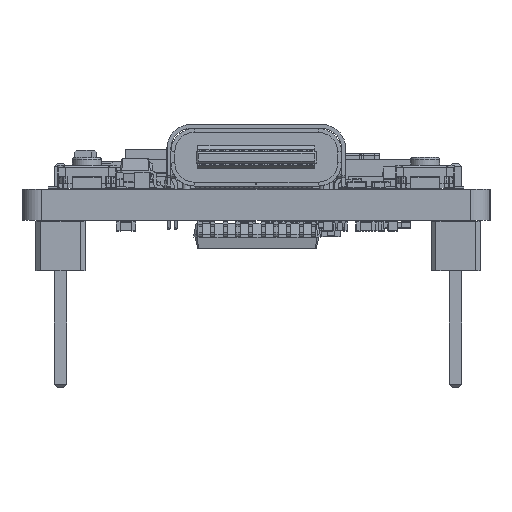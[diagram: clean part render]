
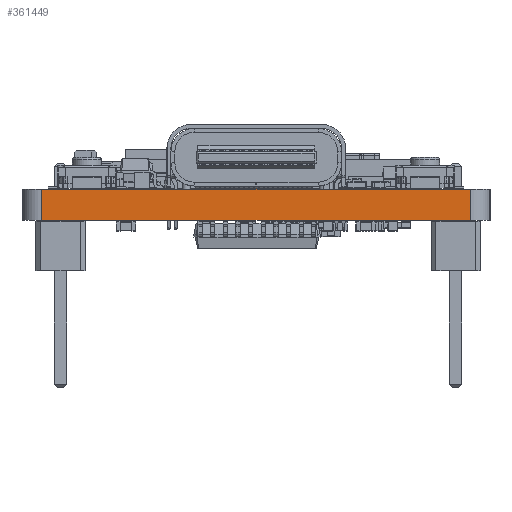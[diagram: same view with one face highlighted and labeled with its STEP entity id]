
A CAD part, left-side view. The second image highlights one B-rep face of the part: STEP entity #361449.
In plain terms, the highlighted planar face has unit normal (-1, 0, 0).
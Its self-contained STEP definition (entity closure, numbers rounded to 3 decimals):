
#356937 = PLANE('',#356938);
#356938 = AXIS2_PLACEMENT_3D('',#356939,#356940,#356941);
#356939 = CARTESIAN_POINT('',(29.807,12.065,1.6));
#356940 = DIRECTION('',(0.,0.,1.));
#356941 = DIRECTION('',(1.,0.,0.));
#356991 = PLANE('',#356992);
#356992 = AXIS2_PLACEMENT_3D('',#356993,#356994,#356995);
#356993 = CARTESIAN_POINT('',(29.807,12.065,0.));
#356994 = DIRECTION('',(0.,0.,1.));
#356995 = DIRECTION('',(1.,0.,0.));
#357188 = VERTEX_POINT('',#357189);
#357189 = CARTESIAN_POINT('',(0.025,23.089,0.));
#357204 = CYLINDRICAL_SURFACE('',#357205,1.016);
#357205 = AXIS2_PLACEMENT_3D('',#357206,#357207,#357208);
#357206 = CARTESIAN_POINT('',(1.041,23.089,0.));
#357207 = DIRECTION('',(0.,0.,-1.));
#357208 = DIRECTION('',(1.,0.,0.));
#357216 = EDGE_CURVE('',#357188,#357217,#357219,.T.);
#357217 = VERTEX_POINT('',#357218);
#357218 = CARTESIAN_POINT('',(0.025,1.041,0.));
#357219 = SURFACE_CURVE('',#357220,(#357224,#357231),.PCURVE_S1.);
#357220 = LINE('',#357221,#357222);
#357221 = CARTESIAN_POINT('',(0.025,23.089,0.));
#357222 = VECTOR('',#357223,1.);
#357223 = DIRECTION('',(0.,-1.,0.));
#357224 = PCURVE('',#356991,#357225);
#357225 = DEFINITIONAL_REPRESENTATION('',(#357226),#357230);
#357226 = LINE('',#357227,#357228);
#357227 = CARTESIAN_POINT('',(-29.782,11.024));
#357228 = VECTOR('',#357229,1.);
#357229 = DIRECTION('',(0.,-1.));
#357230 = ( GEOMETRIC_REPRESENTATION_CONTEXT(2) 
PARAMETRIC_REPRESENTATION_CONTEXT() REPRESENTATION_CONTEXT('2D SPACE',''
  ) );
#357231 = PCURVE('',#357232,#357237);
#357232 = PLANE('',#357233);
#357233 = AXIS2_PLACEMENT_3D('',#357234,#357235,#357236);
#357234 = CARTESIAN_POINT('',(0.025,23.089,0.));
#357235 = DIRECTION('',(1.,0.,0.));
#357236 = DIRECTION('',(0.,-1.,0.));
#357237 = DEFINITIONAL_REPRESENTATION('',(#357238),#357242);
#357238 = LINE('',#357239,#357240);
#357239 = CARTESIAN_POINT('',(0.,0.));
#357240 = VECTOR('',#357241,1.);
#357241 = DIRECTION('',(1.,0.));
#357242 = ( GEOMETRIC_REPRESENTATION_CONTEXT(2) 
PARAMETRIC_REPRESENTATION_CONTEXT() REPRESENTATION_CONTEXT('2D SPACE',''
  ) );
#357261 = CYLINDRICAL_SURFACE('',#357262,1.016);
#357262 = AXIS2_PLACEMENT_3D('',#357263,#357264,#357265);
#357263 = CARTESIAN_POINT('',(1.041,1.041,0.));
#357264 = DIRECTION('',(0.,0.,-1.));
#357265 = DIRECTION('',(1.,0.,0.));
#359462 = VERTEX_POINT('',#359463);
#359463 = CARTESIAN_POINT('',(0.025,23.089,1.6));
#359485 = EDGE_CURVE('',#359462,#359486,#359488,.T.);
#359486 = VERTEX_POINT('',#359487);
#359487 = CARTESIAN_POINT('',(0.025,1.041,1.6));
#359488 = SURFACE_CURVE('',#359489,(#359493,#359500),.PCURVE_S1.);
#359489 = LINE('',#359490,#359491);
#359490 = CARTESIAN_POINT('',(0.025,23.089,1.6));
#359491 = VECTOR('',#359492,1.);
#359492 = DIRECTION('',(0.,-1.,0.));
#359493 = PCURVE('',#356937,#359494);
#359494 = DEFINITIONAL_REPRESENTATION('',(#359495),#359499);
#359495 = LINE('',#359496,#359497);
#359496 = CARTESIAN_POINT('',(-29.782,11.024));
#359497 = VECTOR('',#359498,1.);
#359498 = DIRECTION('',(0.,-1.));
#359499 = ( GEOMETRIC_REPRESENTATION_CONTEXT(2) 
PARAMETRIC_REPRESENTATION_CONTEXT() REPRESENTATION_CONTEXT('2D SPACE',''
  ) );
#359500 = PCURVE('',#357232,#359501);
#359501 = DEFINITIONAL_REPRESENTATION('',(#359502),#359506);
#359502 = LINE('',#359503,#359504);
#359503 = CARTESIAN_POINT('',(0.,-1.6));
#359504 = VECTOR('',#359505,1.);
#359505 = DIRECTION('',(1.,0.));
#359506 = ( GEOMETRIC_REPRESENTATION_CONTEXT(2) 
PARAMETRIC_REPRESENTATION_CONTEXT() REPRESENTATION_CONTEXT('2D SPACE',''
  ) );
#361399 = EDGE_CURVE('',#357217,#359486,#361400,.T.);
#361400 = SURFACE_CURVE('',#361401,(#361405,#361412),.PCURVE_S1.);
#361401 = LINE('',#361402,#361403);
#361402 = CARTESIAN_POINT('',(0.025,1.041,0.));
#361403 = VECTOR('',#361404,1.);
#361404 = DIRECTION('',(0.,0.,1.));
#361405 = PCURVE('',#357261,#361406);
#361406 = DEFINITIONAL_REPRESENTATION('',(#361407),#361411);
#361407 = LINE('',#361408,#361409);
#361408 = CARTESIAN_POINT('',(-3.142,0.));
#361409 = VECTOR('',#361410,1.);
#361410 = DIRECTION('',(0.,-1.));
#361411 = ( GEOMETRIC_REPRESENTATION_CONTEXT(2) 
PARAMETRIC_REPRESENTATION_CONTEXT() REPRESENTATION_CONTEXT('2D SPACE',''
  ) );
#361412 = PCURVE('',#357232,#361413);
#361413 = DEFINITIONAL_REPRESENTATION('',(#361414),#361418);
#361414 = LINE('',#361415,#361416);
#361415 = CARTESIAN_POINT('',(22.047,0.));
#361416 = VECTOR('',#361417,1.);
#361417 = DIRECTION('',(0.,-1.));
#361418 = ( GEOMETRIC_REPRESENTATION_CONTEXT(2) 
PARAMETRIC_REPRESENTATION_CONTEXT() REPRESENTATION_CONTEXT('2D SPACE',''
  ) );
#361428 = EDGE_CURVE('',#357188,#359462,#361429,.T.);
#361429 = SURFACE_CURVE('',#361430,(#361434,#361441),.PCURVE_S1.);
#361430 = LINE('',#361431,#361432);
#361431 = CARTESIAN_POINT('',(0.025,23.089,0.));
#361432 = VECTOR('',#361433,1.);
#361433 = DIRECTION('',(0.,0.,1.));
#361434 = PCURVE('',#357204,#361435);
#361435 = DEFINITIONAL_REPRESENTATION('',(#361436),#361440);
#361436 = LINE('',#361437,#361438);
#361437 = CARTESIAN_POINT('',(-3.142,0.));
#361438 = VECTOR('',#361439,1.);
#361439 = DIRECTION('',(0.,-1.));
#361440 = ( GEOMETRIC_REPRESENTATION_CONTEXT(2) 
PARAMETRIC_REPRESENTATION_CONTEXT() REPRESENTATION_CONTEXT('2D SPACE',''
  ) );
#361441 = PCURVE('',#357232,#361442);
#361442 = DEFINITIONAL_REPRESENTATION('',(#361443),#361447);
#361443 = LINE('',#361444,#361445);
#361444 = CARTESIAN_POINT('',(0.,0.));
#361445 = VECTOR('',#361446,1.);
#361446 = DIRECTION('',(0.,-1.));
#361447 = ( GEOMETRIC_REPRESENTATION_CONTEXT(2) 
PARAMETRIC_REPRESENTATION_CONTEXT() REPRESENTATION_CONTEXT('2D SPACE',''
  ) );
#361449 = ADVANCED_FACE('',(#361450),#357232,.F.);
#361450 = FACE_BOUND('',#361451,.F.);
#361451 = EDGE_LOOP('',(#361452,#361453,#361454,#361455));
#361452 = ORIENTED_EDGE('',*,*,#361428,.T.);
#361453 = ORIENTED_EDGE('',*,*,#359485,.T.);
#361454 = ORIENTED_EDGE('',*,*,#361399,.F.);
#361455 = ORIENTED_EDGE('',*,*,#357216,.F.);
